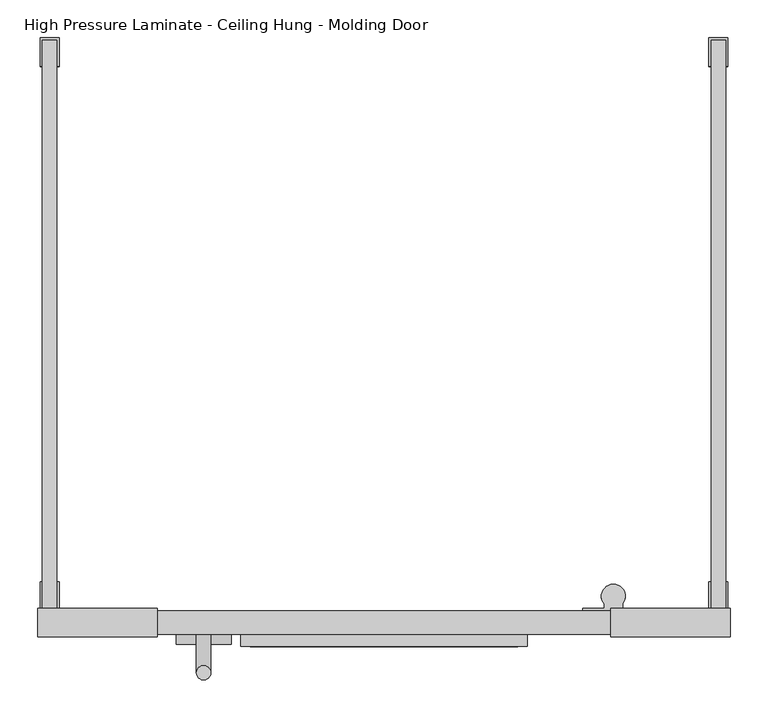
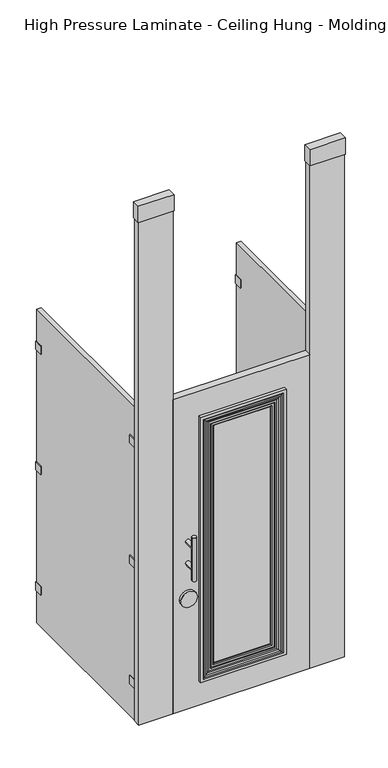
"""IFC4 building model written with IfcOpenShell, lengths in millimetres: proxy geometry, Toilet-Partition_Ironwood-Mfg_High-Pressure-Laminate : High Pressure Laminate - Ceiling Hung - Molding Door."""

from ifc_helpers import new_model, si_unit, point, frame, frame_2d, origin, place, context, project, spatial, polyline, circle_curve, ellipse_curve, trimmed, segment, composite_curve, outline, extrude, source, transform, mapped, element, save
from ifc_brep_helpers import plane_surface, cylinder_surface, revolved_surface, advanced_brep


def high_pressure_laminate_ceiling_hung_molding_door_ac1d6351(model_context):
    return source(origin(), model_context, "Body", "SolidModel", [
        extrude(outline(polyline([(542.925, -796.925), (542.925, -758.825), (701.675, -758.825), (701.675, -796.925), (542.925, -796.925)])), frame((0.0, 0.0, 2667.0), z_axis=(0.0, 0.0, 1.0), x_axis=(1.0, 0.0, 0.0)), (0.0, 0.0, 1.0), 76.1999999),
        extrude(outline(polyline([(0.0, 152.4), (31.75, 152.4), (31.75, 0.0), (0.0, 0.0), (0.0, 152.4)])), frame((546.1, -762.0, 304.8), z_axis=(1.181277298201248e-12, 0.0, 1.0), x_axis=(0.0, -1.0, 0.0)), (0.0, 0.0, 1.0), 2362.2),
        extrude(outline(polyline([(-60.325, -796.925), (-219.075, -796.925), (-219.075, -758.825), (-60.325, -758.825), (-60.325, -796.925)])), frame((0.0, 0.0, 2667.0), z_axis=(0.0, 0.0, 1.0), x_axis=(1.0, 0.0, 0.0)), (0.0, 0.0, 1.0), 76.1999999),
        extrude(outline(polyline([(0.0, -152.4), (0.0, 0.0), (31.75, 0.0), (31.75, -152.4), (0.0, -152.4)])), frame((-63.5, -762.0, 304.8), z_axis=(-1.1812772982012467e-12, 0.0, 1.0), x_axis=(0.0, -1.0, 0.0)), (0.0, 0.0, 1.0), 2362.2),
        extrude(outline(polyline([(546.1, -793.75), (-63.5, -793.75), (-63.5, -762.0), (546.1, -762.0), (546.1, -793.75)])), frame((0.0, 0.0, 304.8), z_axis=(0.0, 0.0, 1.0), x_axis=(1.0, 0.0, 0.0)), (0.0, 0.0, 1.0), 1473.2),
        extrude(outline(composite_curve([segment(trimmed(circle_curve(frame_2d((827.0875, 1.5875)), 36.5125), [point((827.0875, -34.925))], [point((827.0875, 38.1))], False, "CARTESIAN"), True, "CONTINUOUS"), segment(trimmed(circle_curve(frame_2d((827.0875, 1.5875)), 36.5125), [point((827.0875, 38.1))], [point((827.0875, -34.925))], False, "CARTESIAN"), True, "CONTINUOUS")], self_intersect=False)), frame((0.0, -806.45, 0.0), z_axis=(0.0, 1.0, 0.0), x_axis=(0.0, 0.0, 1.0)), (0.0, 0.0, 1.0), 12.7),
        advanced_brep(
        [(-7.9375, -793.75, 1092.2), (11.1125, -793.75, 1092.2), (-7.9375, -793.75, 990.6), (11.1125, -793.75, 990.6), (11.1125, -844.55, 1092.2), (-7.9375, -844.55, 1092.2), (11.1125, -844.55, 990.6), (-7.9375, -844.55, 990.6), (-7.9375, -844.55, 1143.0), (11.1125, -844.55, 1143.0), (-7.9375, -844.55, 939.8), (11.1125, -844.55, 939.8)],
        [
            (0, 1, circle_curve(frame((1.5875, -793.75, 1092.2), z_axis=(0.0, 1.0, 0.0), x_axis=(1.0, 0.0, 0.0)), 9.525)),
            (1, 0, circle_curve(frame((1.5875, -793.75, 1092.2), z_axis=(0.0, 1.0, 0.0), x_axis=(1.0, 0.0, 0.0)), 9.525)),
            (2, 3, circle_curve(frame((1.5875, -793.75, 990.6), z_axis=(0.0, 1.0, 0.0), x_axis=(1.0, 0.0, 0.0)), 9.525)),
            (3, 2, circle_curve(frame((1.5875, -793.75, 990.6), z_axis=(0.0, 1.0, 0.0), x_axis=(1.0, 0.0, 0.0)), 9.525)),
            (1, 4),
            (4, 5, ellipse_curve(frame((1.5875, -844.55, 1092.2), z_axis=(0.0, 0.7071067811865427, 0.7071067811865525), x_axis=(0.0, -0.7071067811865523, 0.7071067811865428)), 13.4703842, 9.525)),
            (5, 0),
            (5, 4, ellipse_curve(frame((1.5875, -844.55, 1092.2), z_axis=(0.0, 0.7071067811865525, -0.7071067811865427), x_axis=(0.0, -0.7071067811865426, -0.7071067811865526)), 13.4703842, 9.525)),
            (3, 6),
            (6, 7, ellipse_curve(frame((1.5875, -844.55, 990.6), z_axis=(0.0, 0.7071067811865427, 0.7071067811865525), x_axis=(0.0, -0.7071067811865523, 0.7071067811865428)), 13.4703842, 9.525)),
            (7, 2),
            (7, 6, ellipse_curve(frame((1.5875, -844.55, 990.6), z_axis=(0.0, 0.7071067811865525, -0.7071067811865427), x_axis=(0.0, -0.7071067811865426, -0.7071067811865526)), 13.4703842, 9.525)),
            (8, 9, circle_curve(frame((1.5875, -844.55, 1143.0), z_axis=(0.0, 0.0, 1.0), x_axis=(1.0, 0.0, 0.0)), 9.525)),
            (9, 8, circle_curve(frame((1.5875, -844.55, 1143.0), z_axis=(0.0, 0.0, 1.0), x_axis=(1.0, 0.0, 0.0)), 9.525)),
            (10, 11, circle_curve(frame((1.5875, -844.55, 939.8), z_axis=(0.0, 0.0, -1.0), x_axis=(1.0, 0.0, 0.0)), 9.525)),
            (11, 10, circle_curve(frame((1.5875, -844.55, 939.8), z_axis=(0.0, 0.0, -1.0), x_axis=(1.0, 0.0, 0.0)), 9.525)),
            (8, 5),
            (5, 7),
            (7, 10),
            (11, 6),
            (6, 4),
            (4, 9),
        ],
        [
            plane_surface(frame((11.1125, -793.75, 1092.2), z_axis=(0.0, 1.0, 0.0), x_axis=(0.0, 0.0, -1.0))),
            cylinder_surface(frame((1.5875, -793.75, 1092.2), z_axis=(0.0, -1.0, 0.0), x_axis=(1.0, 0.0, 0.0)), 9.525),
            cylinder_surface(frame((1.5875, -793.75, 990.6), z_axis=(0.0, -1.0, 0.0), x_axis=(1.0, 0.0, 0.0)), 9.525),
            plane_surface(frame((11.1125, -844.55, 1143.0), z_axis=(0.0, 0.0, 1.0), x_axis=(0.0, 1.0, 0.0))),
            plane_surface(frame((11.1125, -844.55, 939.8), z_axis=(0.0, 0.0, -1.0), x_axis=(0.0, -1.0, 0.0))),
            cylinder_surface(frame((1.5875, -844.55, 939.8), z_axis=(0.0, 0.0, 1.0), x_axis=(1.0, 0.0, 0.0)), 9.525),
        ],
        [
            (0, [[1, 2]]),
            (0, [[3, 4]]),
            (1, [[-2, 5, 6, 7]]),
            (1, [[-1, -7, 8, -5]]),
            (2, [[-4, 9, 10, 11]]),
            (2, [[-3, -11, 12, -9]]),
            (3, [[13, 14]]),
            (4, [[15, 16]]),
            (5, [[-13, 17, 18, 19, -16, 20, 21, 22]]),
            (5, [[-14, -22, -8, -17]]),
            (5, [[-15, -19, -10, -20]]),
            (5, [[-18, -6, -21, -12]]),
        ],
    ),
        advanced_brep(
        [(414.5195881, -795.0073117, 1646.4195881), (415.7768998, -793.75, 1647.6768998), (415.7768998, -793.75, 435.1231002), (414.5195881, -795.0073117, 436.3804119), (382.8493103, -793.6667663, 1614.7493103), (384.1898558, -795.0073117, 1616.0898558), (384.1898558, -795.0073117, 466.7101442), (382.8493103, -793.6667663, 468.0506897), (368.3, -798.7403203, 1600.2), (368.3, -793.6667663, 1600.2), (368.3, -793.6667663, 482.6), (368.3, -798.7403203, 482.6), (371.8761431, -802.1839988, 1603.7761431), (371.8761431, -802.1839988, 479.0238569), (383.7857899, -803.6776278, 1615.6857899), (381.5195942, -802.1839988, 1613.4195942), (381.5195942, -802.1839988, 469.3804058), (383.7857899, -803.6776278, 467.1142101), (399.1420677, -804.5443603, 1631.0420677), (393.8806616, -803.6776278, 1625.7806616), (393.8806616, -803.6776278, 457.0193384), (399.1420677, -804.5443603, 451.7579323), (406.241729, -807.1284257, 1638.141729), (406.241729, -807.1284257, 444.658271), (415.3065117, -806.819399, 1647.2065117), (415.3065117, -806.819399, 435.5934883), (419.1, -809.625, 1651.0), (419.1, -809.625, 431.8), (431.8, -793.75, 1663.7), (431.8, -809.625, 1663.7), (431.8, -809.625, 419.1), (431.8, -793.75, 419.1), (66.8231002, -793.75, 435.1231002), (68.0804119, -795.0073117, 436.3804119), (98.4101442, -795.0073117, 466.7101442), (99.7506897, -793.6667663, 468.0506897), (114.3, -793.6667663, 482.6), (114.3, -798.7403203, 482.6), (110.7238569, -802.1839988, 479.0238569), (101.0804058, -802.1839988, 469.3804058), (98.8142101, -803.6776278, 467.1142101), (88.7193384, -803.6776278, 457.0193384), (83.4579323, -804.5443603, 451.7579323), (76.358271, -807.1284257, 444.658271), (67.2934883, -806.819399, 435.5934883), (63.5, -809.625, 431.8), (50.8, -809.625, 419.1), (50.8, -793.75, 419.1), (66.8231002, -793.75, 1647.6768998), (68.0804119, -795.0073117, 1646.4195881), (98.4101442, -795.0073117, 1616.0898558), (99.7506897, -793.6667663, 1614.7493103), (114.3, -793.6667663, 1600.2), (114.3, -798.7403203, 1600.2), (110.7238569, -802.1839988, 1603.7761431), (101.0804058, -802.1839988, 1613.4195942), (98.8142101, -803.6776278, 1615.6857899), (88.7193384, -803.6776278, 1625.7806616), (83.4579323, -804.5443603, 1631.0420677), (76.358271, -807.1284257, 1638.141729), (67.2934883, -806.819399, 1647.2065117), (63.5, -809.625, 1651.0), (50.8, -809.625, 1663.7), (50.8, -793.75, 1663.7)],
        [
            (0, 1),
            (1, 2),
            (2, 3),
            (3, 0),
            (4, 5),
            (5, 6),
            (6, 7),
            (7, 4),
            (8, 9),
            (9, 10),
            (10, 11),
            (11, 8),
            (12, 8, ellipse_curve(frame((371.8761431, -798.6053079, 1603.7761431), z_axis=(0.7071067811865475, 0.0, -0.7071067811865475), x_axis=(0.7071067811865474, 0.0, 0.7071067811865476)), 5.0610331, 3.5786908)),
            (11, 13, ellipse_curve(frame((371.8761431, -798.6053079, 479.0238569), z_axis=(0.7071067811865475, 0.0, 0.7071067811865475), x_axis=(-0.7071067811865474, 0.0, 0.7071067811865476)), 5.0610331, 3.5786908)),
            (13, 12),
            (14, 15, ellipse_curve(frame((383.7857899, -801.2116303, 1615.6857899), z_axis=(0.7071067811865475, 0.0, -0.7071067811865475), x_axis=(0.7071067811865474, 0.0, 0.7071067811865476)), 3.487447, 2.4659974)),
            (15, 16),
            (16, 17, ellipse_curve(frame((383.7857899, -801.2116303, 467.1142101), z_axis=(0.7071067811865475, 0.0, 0.7071067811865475), x_axis=(-0.7071067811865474, 0.0, 0.7071067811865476)), 3.487447, 2.4659974)),
            (17, 14),
            (18, 19, ellipse_curve(frame((394.2058089, -818.1066197, 1626.1058089), z_axis=(-0.7071067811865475, 0.0, 0.7071067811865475), x_axis=(-0.7071067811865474, 0.0, -0.7071067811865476)), 20.4108564, 14.432655)),
            (19, 20),
            (20, 21, ellipse_curve(frame((394.2058089, -818.1066197, 456.6941911), z_axis=(-0.7071067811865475, 0.0, -0.7071067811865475), x_axis=(0.7071067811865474, 0.0, -0.7071067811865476)), 20.4108564, 14.432655)),
            (21, 18),
            (22, 18),
            (21, 23),
            (23, 22),
            (24, 22, ellipse_curve(frame((410.3907719, -795.729024, 1642.2907719), z_axis=(0.7071067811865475, 0.0, -0.7071067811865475), x_axis=(0.7071067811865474, 0.0, 0.7071067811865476)), 17.1558104, 12.1309899)),
            (23, 25, ellipse_curve(frame((410.3907719, -795.729024, 440.5092281), z_axis=(0.7071067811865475, 0.0, 0.7071067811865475), x_axis=(-0.7071067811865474, 0.0, 0.7071067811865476)), 17.1558104, 12.1309899)),
            (25, 24),
            (26, 24, ellipse_curve(frame((419.1, -805.657588, 1651.0), z_axis=(0.7071067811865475, 0.0, -0.7071067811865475), x_axis=(0.7071067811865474, 0.0, 0.7071067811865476)), 5.6107679, 3.967412)),
            (25, 27, ellipse_curve(frame((419.1, -805.657588, 431.8), z_axis=(0.7071067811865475, 0.0, 0.7071067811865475), x_axis=(-0.7071067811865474, 0.0, 0.7071067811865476)), 5.6107679, 3.967412)),
            (27, 26),
            (28, 29),
            (29, 30),
            (30, 31),
            (31, 28),
            (2, 32),
            (32, 33),
            (33, 3),
            (6, 34),
            (34, 35),
            (35, 7),
            (10, 36),
            (36, 37),
            (37, 11),
            (37, 38, ellipse_curve(frame((110.7238569, -798.6053079, 479.0238569), z_axis=(0.7071067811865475, 0.0, -0.7071067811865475), x_axis=(0.7071067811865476, 0.0, 0.7071067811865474)), 5.0610331, 3.5786908)),
            (38, 13),
            (16, 39),
            (39, 40, ellipse_curve(frame((98.8142101, -801.2116303, 467.1142101), z_axis=(0.7071067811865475, 0.0, -0.7071067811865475), x_axis=(0.7071067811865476, 0.0, 0.7071067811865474)), 3.487447, 2.4659974)),
            (40, 17),
            (20, 41),
            (41, 42, ellipse_curve(frame((88.3941911, -818.1066197, 456.6941911), z_axis=(-0.7071067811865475, 0.0, 0.7071067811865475), x_axis=(-0.7071067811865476, 0.0, -0.7071067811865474)), 20.4108564, 14.432655)),
            (42, 21),
            (42, 43),
            (43, 23),
            (43, 44, ellipse_curve(frame((72.2092281, -795.729024, 440.5092281), z_axis=(0.7071067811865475, 0.0, -0.7071067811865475), x_axis=(0.7071067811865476, 0.0, 0.7071067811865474)), 17.1558104, 12.1309899)),
            (44, 25),
            (44, 45, ellipse_curve(frame((63.5, -805.657588, 431.8), z_axis=(0.7071067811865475, 0.0, -0.7071067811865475), x_axis=(0.7071067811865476, 0.0, 0.7071067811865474)), 5.6107679, 3.967412)),
            (45, 27),
            (30, 46),
            (46, 47),
            (47, 31),
            (32, 48),
            (48, 49),
            (49, 33),
            (34, 50),
            (50, 51),
            (51, 35),
            (36, 52),
            (52, 53),
            (53, 37),
            (53, 54, ellipse_curve(frame((110.7238569, -798.6053079, 1603.7761431), z_axis=(-0.7071067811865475, 0.0, -0.7071067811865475), x_axis=(0.7071067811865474, 0.0, -0.7071067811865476)), 5.0610331, 3.5786908)),
            (54, 38),
            (39, 55),
            (55, 56, ellipse_curve(frame((98.8142101, -801.2116303, 1615.6857899), z_axis=(-0.7071067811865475, 0.0, -0.7071067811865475), x_axis=(0.7071067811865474, 0.0, -0.7071067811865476)), 3.487447, 2.4659974)),
            (56, 40),
            (41, 57),
            (57, 58, ellipse_curve(frame((88.3941911, -818.1066197, 1626.1058089), z_axis=(0.7071067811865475, 0.0, 0.7071067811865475), x_axis=(-0.7071067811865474, 0.0, 0.7071067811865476)), 20.4108564, 14.432655)),
            (58, 42),
            (58, 59),
            (59, 43),
            (59, 60, ellipse_curve(frame((72.2092281, -795.729024, 1642.2907719), z_axis=(-0.7071067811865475, 0.0, -0.7071067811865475), x_axis=(0.7071067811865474, 0.0, -0.7071067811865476)), 17.1558104, 12.1309899)),
            (60, 44),
            (60, 61, ellipse_curve(frame((63.5, -805.657588, 1651.0), z_axis=(-0.7071067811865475, 0.0, -0.7071067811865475), x_axis=(0.7071067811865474, 0.0, -0.7071067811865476)), 5.6107679, 3.967412)),
            (61, 45),
            (46, 62),
            (62, 63),
            (63, 47),
            (63, 28),
            (1, 48),
            (0, 49),
            (5, 50),
            (4, 51),
            (9, 52),
            (8, 53),
            (12, 54),
            (15, 55),
            (14, 56),
            (19, 57),
            (18, 58),
            (22, 59),
            (24, 60),
            (26, 61),
            (29, 62),
        ],
        [
            plane_surface(frame((415.7768998, -793.75, 1647.6768998), z_axis=(-0.7071067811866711, 0.7071067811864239, 0.0), x_axis=(0.0, 0.0, -1.0))),
            plane_surface(frame((384.1898558, -795.0073117, 1616.0898558), z_axis=(0.7071067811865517, 0.7071067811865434, 0.0), x_axis=(0.0, 0.0, -1.0))),
            plane_surface(frame((368.3, -793.6667663, 1600.2), z_axis=(-1.0, 0.0, 0.0), x_axis=(0.0, 0.0, -1.0))),
            cylinder_surface(frame((371.8761431, -798.6053079, 1663.7), z_axis=(0.0, 0.0, 1.0), x_axis=(1.0, 0.0, 0.0)), 3.5786908),
            cylinder_surface(frame((383.7857899, -801.2116303, 1663.7), z_axis=(0.0, 0.0, 1.0), x_axis=(1.0, 0.0, 0.0)), 2.4659974),
            revolved_surface(polyline([(408.63846390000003, -818.1066197, 442.2615361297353), (408.63846390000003, -818.1066197, 1640.5384638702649)]), (394.2058089, -818.1066197, 1663.7), (0.0, 0.0, -1.0)),
            plane_surface(frame((399.1420677, -804.5443603, 1631.0420677), z_axis=(-0.34202014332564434, -0.9396926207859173, 0.0), x_axis=(0.0, 0.0, -1.0))),
            cylinder_surface(frame((410.3907719, -795.729024, 1663.7), z_axis=(0.0, 0.0, 1.0), x_axis=(1.0, 0.0, 0.0)), 12.1309899),
            cylinder_surface(frame((419.1, -805.657588, 1663.7), z_axis=(0.0, 0.0, 1.0), x_axis=(1.0, 0.0, 0.0)), 3.967412),
            plane_surface(frame((431.8, -809.625, 1663.7), z_axis=(1.0, 0.0, 0.0), x_axis=(0.0, 0.0, -1.0))),
            plane_surface(frame((415.7768998, -793.75, 435.1231002), z_axis=(0.0, 0.7071067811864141, 0.7071067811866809), x_axis=(-1.0, 0.0, 0.0))),
            plane_surface(frame((384.1898558, -795.0073117, 466.7101442), z_axis=(0.0, 0.7071067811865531, -0.7071067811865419), x_axis=(-1.0, 0.0, 0.0))),
            plane_surface(frame((368.3, -793.6667663, 482.6), z_axis=(0.0, 0.0, 1.0), x_axis=(-1.0, 0.0, 0.0))),
            cylinder_surface(frame((431.8, -798.6053079, 479.0238569), z_axis=(1.0, 0.0, 0.0), x_axis=(0.0, 0.0, -1.0)), 3.5786908),
            cylinder_surface(frame((431.8, -801.2116303, 467.1142101), z_axis=(1.0, 0.0, 0.0), x_axis=(0.0, 0.0, -1.0)), 2.4659974),
            revolved_surface(polyline([(73.96153612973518, -818.1066197, 442.2615361), (408.63846387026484, -818.1066197, 442.2615361)]), (431.8, -818.1066197, 456.6941911), (-1.0, 0.0, 0.0)),
            plane_surface(frame((399.1420677, -804.5443603, 451.7579323), z_axis=(0.0, -0.9396926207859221, 0.34202014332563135), x_axis=(-1.0, 0.0, 0.0))),
            cylinder_surface(frame((431.8, -795.729024, 440.5092281), z_axis=(1.0, 0.0, 0.0), x_axis=(0.0, 0.0, -1.0)), 12.1309899),
            cylinder_surface(frame((431.8, -805.657588, 431.8), z_axis=(1.0, 0.0, 0.0), x_axis=(0.0, 0.0, -1.0)), 3.967412),
            plane_surface(frame((431.8, -809.625, 419.1), z_axis=(0.0, 0.0, -1.0), x_axis=(-1.0, 0.0, 0.0))),
            plane_surface(frame((66.8231002, -793.75, 435.1231002), z_axis=(0.7071067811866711, 0.7071067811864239, 0.0), x_axis=(0.0, 0.0, 1.0))),
            plane_surface(frame((98.4101442, -795.0073117, 466.7101442), z_axis=(-0.7071067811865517, 0.7071067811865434, 0.0), x_axis=(0.0, 0.0, 1.0))),
            plane_surface(frame((114.3, -793.6667663, 482.6), z_axis=(1.0, 0.0, 0.0), x_axis=(0.0, 0.0, 1.0))),
            cylinder_surface(frame((110.7238569, -798.6053079, 419.1), z_axis=(0.0, 0.0, -1.0), x_axis=(-1.0, 0.0, 0.0)), 3.5786908),
            cylinder_surface(frame((98.8142101, -801.2116303, 419.1), z_axis=(0.0, 0.0, -1.0), x_axis=(-1.0, 0.0, 0.0)), 2.4659974),
            revolved_surface(polyline([(73.9615361, -818.1066197, 1640.5384638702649), (73.9615361, -818.1066197, 442.2615361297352)]), (88.3941911, -818.1066197, 419.1), (0.0, 0.0, 1.0)),
            plane_surface(frame((83.4579323, -804.5443603, 451.7579323), z_axis=(0.34202014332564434, -0.9396926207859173, 0.0), x_axis=(0.0, 0.0, 1.0))),
            cylinder_surface(frame((72.2092281, -795.729024, 419.1), z_axis=(0.0, 0.0, -1.0), x_axis=(-1.0, 0.0, 0.0)), 12.1309899),
            cylinder_surface(frame((63.5, -805.657588, 419.1), z_axis=(0.0, 0.0, -1.0), x_axis=(-1.0, 0.0, 0.0)), 3.967412),
            plane_surface(frame((50.8, -809.625, 419.1), z_axis=(-1.0, 0.0, 0.0), x_axis=(0.0, 0.0, 1.0))),
            plane_surface(frame((50.8, -793.75, 1663.7), z_axis=(0.0, 1.0, 0.0), x_axis=(1.0, 0.0, 0.0))),
            plane_surface(frame((66.8231002, -793.75, 1647.6768998), z_axis=(0.0, 0.7071067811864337, -0.7071067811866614), x_axis=(1.0, 0.0, 0.0))),
            plane_surface(frame((68.0804119, -795.0073117, 1646.4195881), z_axis=(0.0, 1.0, 0.0), x_axis=(1.0, 0.0, 0.0))),
            plane_surface(frame((98.4101442, -795.0073117, 1616.0898558), z_axis=(0.0, 0.7071067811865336, 0.7071067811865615), x_axis=(1.0, 0.0, 0.0))),
            plane_surface(frame((99.7506897, -793.6667663, 1614.7493103), z_axis=(0.0, 1.0, 0.0), x_axis=(1.0, 0.0, 0.0))),
            plane_surface(frame((114.3, -793.6667663, 1600.2), z_axis=(0.0, 0.0, -1.0), x_axis=(1.0, 0.0, 0.0))),
            cylinder_surface(frame((50.8, -798.6053079, 1603.7761431), z_axis=(-1.0, 0.0, 0.0), x_axis=(0.0, 0.0, 1.0)), 3.5786908),
            plane_surface(frame((110.7238569, -802.1839988, 1603.7761431), z_axis=(0.0, -1.0, 0.0), x_axis=(1.0, 0.0, 0.0))),
            cylinder_surface(frame((50.8, -801.2116303, 1615.6857899), z_axis=(-1.0, 0.0, 0.0), x_axis=(0.0, 0.0, 1.0)), 2.4659974),
            plane_surface(frame((98.8142101, -803.6776278, 1615.6857899), z_axis=(0.0, -1.0, 0.0), x_axis=(1.0, 0.0, 0.0))),
            revolved_surface(polyline([(408.63846387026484, -818.1066197, 1640.5384639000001), (73.96153612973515, -818.1066197, 1640.5384639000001)]), (50.8, -818.1066197, 1626.1058089), (1.0, 0.0, 0.0)),
            plane_surface(frame((83.4579323, -804.5443603, 1631.0420677), z_axis=(0.0, -0.9396926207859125, -0.34202014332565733), x_axis=(1.0, 0.0, 0.0))),
            cylinder_surface(frame((50.8, -795.729024, 1642.2907719), z_axis=(-1.0, 0.0, 0.0), x_axis=(0.0, 0.0, 1.0)), 12.1309899),
            cylinder_surface(frame((50.8, -805.657588, 1651.0), z_axis=(-1.0, 0.0, 0.0), x_axis=(0.0, 0.0, 1.0)), 3.967412),
            plane_surface(frame((63.5, -809.625, 1651.0), z_axis=(0.0, -1.0, 0.0), x_axis=(1.0, 0.0, 0.0))),
            plane_surface(frame((50.8, -809.625, 1663.7), z_axis=(0.0, 0.0, 1.0), x_axis=(1.0, 0.0, 0.0))),
        ],
        [
            (0, [[1, 2, 3, 4]]),
            (1, [[5, 6, 7, 8]]),
            (2, [[9, 10, 11, 12]]),
            (3, [[13, -12, 14, 15]]),
            (4, [[16, 17, 18, 19]]),
            (5, [[20, 21, 22, 23]]),
            (6, [[24, -23, 25, 26]]),
            (7, [[27, -26, 28, 29]]),
            (8, [[30, -29, 31, 32]]),
            (9, [[33, 34, 35, 36]]),
            (10, [[-3, 37, 38, 39]]),
            (11, [[-7, 40, 41, 42]]),
            (12, [[-11, 43, 44, 45]]),
            (13, [[-14, -45, 46, 47]]),
            (14, [[-18, 48, 49, 50]]),
            (15, [[-22, 51, 52, 53]]),
            (16, [[-25, -53, 54, 55]]),
            (17, [[-28, -55, 56, 57]]),
            (18, [[-31, -57, 58, 59]]),
            (19, [[-35, 60, 61, 62]]),
            (20, [[-38, 63, 64, 65]]),
            (21, [[-41, 66, 67, 68]]),
            (22, [[-44, 69, 70, 71]]),
            (23, [[-46, -71, 72, 73]]),
            (24, [[-49, 74, 75, 76]]),
            (25, [[-52, 77, 78, 79]]),
            (26, [[-54, -79, 80, 81]]),
            (27, [[-56, -81, 82, 83]]),
            (28, [[-58, -83, 84, 85]]),
            (29, [[-61, 86, 87, 88]]),
            (30, [[-62, -88, 89, -36], [90, -63, -37, -2]]),
            (31, [[-64, -90, -1, 91]]),
            (32, [[-39, -65, -91, -4], [92, -66, -40, -6]]),
            (33, [[-67, -92, -5, 93]]),
            (34, [[-42, -68, -93, -8], [94, -69, -43, -10]]),
            (35, [[-70, -94, -9, 95]]),
            (36, [[-72, -95, -13, 96]]),
            (37, [[97, -74, -48, -17], [-47, -73, -96, -15]]),
            (38, [[-75, -97, -16, 98]]),
            (39, [[99, -77, -51, -21], [-50, -76, -98, -19]]),
            (40, [[-78, -99, -20, 100]]),
            (41, [[-80, -100, -24, 101]]),
            (42, [[-82, -101, -27, 102]]),
            (43, [[-84, -102, -30, 103]]),
            (44, [[104, -86, -60, -34], [-59, -85, -103, -32]]),
            (45, [[-87, -104, -33, -89]]),
        ],
    ),
        extrude(outline(composite_curve([segment(polyline([(581.3737081, -762.0), (505.1737081, -762.0), (505.1737081, -758.825), (533.7487081, -758.825), (533.7487081, -752.9581331)]), True, "CONTINUOUS"), segment(trimmed(circle_curve(frame_2d((546.1, -742.8902139)), 15.9347861), [point((533.7487081, -752.9581331))], [point((558.4512919, -752.9581331))], False, "CARTESIAN"), True, "CONTINUOUS"), segment(polyline([(558.4512919, -752.9581331), (558.4512919, -758.825), (581.3737081, -758.825), (581.3737081, -762.0)]), True, "CONTINUOUS")], self_intersect=False)), frame((0.0, 0.0, 1574.8), z_axis=(0.0, 0.0, 1.0), x_axis=(1.0, 0.0, 0.0)), (0.0, 0.0, 1.0), 63.5),
        extrude(outline(composite_curve([segment(polyline([(581.3737081, -762.0), (505.1737081, -762.0), (505.1737081, -758.825), (533.7487081, -758.825), (533.7487081, -752.9581331)]), True, "CONTINUOUS"), segment(trimmed(circle_curve(frame_2d((546.1, -742.8902139)), 15.9347861), [point((533.7487081, -752.9581331))], [point((558.4512919, -752.9581331))], False, "CARTESIAN"), True, "CONTINUOUS"), segment(polyline([(558.4512919, -752.9581331), (558.4512919, -758.825), (581.3737081, -758.825), (581.3737081, -762.0)]), True, "CONTINUOUS")], self_intersect=False)), frame((0.0, 0.0, 1009.6500001), z_axis=(0.0, 0.0, 1.0), x_axis=(1.0, 0.0, 0.0)), (0.0, 0.0, 1.0), 63.5),
        extrude(outline(composite_curve([segment(polyline([(581.3737081, -762.0), (505.1737081, -762.0), (505.1737081, -758.825), (533.7487081, -758.825), (533.7487081, -752.9581331)]), True, "CONTINUOUS"), segment(trimmed(circle_curve(frame_2d((546.1, -742.8902139)), 15.9347861), [point((533.7487081, -752.9581331))], [point((558.4512919, -752.9581331))], False, "CARTESIAN"), True, "CONTINUOUS"), segment(polyline([(558.4512919, -752.9581331), (558.4512919, -758.825), (581.3737081, -758.825), (581.3737081, -762.0)]), True, "CONTINUOUS")], self_intersect=False)), frame((0.0, 0.0, 444.5), z_axis=(0.0, 0.0, 1.0), x_axis=(1.0, 0.0, 0.0)), (0.0, 0.0, 1.0), 63.5),
        extrude(outline(polyline([(676.148, -723.9), (676.148, -758.825), (695.198, -758.825), (695.198, -723.9), (698.373, -723.9), (698.373, -762.0), (672.973, -762.0), (672.973, -723.9), (676.148, -723.9)])), frame((0.0, 0.0, 1587.8188137), z_axis=(0.0, 0.0, 1.0), x_axis=(1.0, 0.0, 0.0)), (0.0, 0.0, 1.0), 38.1),
        extrude(outline(polyline([(676.148, -38.1), (672.973, -38.1), (672.973, 0.0), (698.373, 0.0), (698.373, -38.1), (695.198, -38.1), (695.198, -3.175), (676.148, -3.175), (676.148, -38.1)])), frame((0.0, 0.0, 1587.8188137), z_axis=(0.0, 0.0, 1.0), x_axis=(1.0, 0.0, 0.0)), (0.0, 0.0, 1.0), 38.1),
        extrude(outline(polyline([(676.148, -723.9), (676.148, -758.825), (695.198, -758.825), (695.198, -723.9), (698.373, -723.9), (698.373, -762.0), (672.973, -762.0), (672.973, -723.9), (676.148, -723.9)])), frame((0.0, 0.0, 1022.35), z_axis=(0.0, 0.0, 1.0), x_axis=(1.0, 0.0, 0.0)), (0.0, 0.0, 1.0), 38.1),
        extrude(outline(polyline([(676.148, -38.1), (672.973, -38.1), (672.973, 0.0), (698.373, 0.0), (698.373, -38.1), (695.198, -38.1), (695.198, -3.175), (676.148, -3.175), (676.148, -38.1)])), frame((0.0, 0.0, 1022.35), z_axis=(0.0, 0.0, 1.0), x_axis=(1.0, 0.0, 0.0)), (0.0, 0.0, 1.0), 38.1),
        extrude(outline(polyline([(676.148, -723.9), (676.148, -758.825), (695.198, -758.825), (695.198, -723.9), (698.373, -723.9), (698.373, -762.0), (672.973, -762.0), (672.973, -723.9), (676.148, -723.9)])), frame((0.0, 0.0, 457.2), z_axis=(0.0, 0.0, 1.0), x_axis=(1.0, 0.0, 0.0)), (0.0, 0.0, 1.0), 38.1),
        extrude(outline(polyline([(676.148, -38.1), (672.973, -38.1), (672.973, 0.0), (698.373, 0.0), (698.373, -38.1), (695.198, -38.1), (695.198, -3.175), (676.148, -3.175), (676.148, -38.1)])), frame((0.0, 0.0, 457.2), z_axis=(0.0, 0.0, 1.0), x_axis=(1.0, 0.0, 0.0)), (0.0, 0.0, 1.0), 38.1),
        extrude(outline(polyline([(-212.598, -723.9), (-212.598, -758.825), (-193.548, -758.825), (-193.548, -723.9), (-190.373, -723.9), (-190.373, -762.0), (-215.773, -762.0), (-215.773, -723.9), (-212.598, -723.9)])), frame((0.0, 0.0, 1587.8188137), z_axis=(0.0, 0.0, 1.0), x_axis=(1.0, 0.0, 0.0)), (0.0, 0.0, 1.0), 38.1),
        extrude(outline(polyline([(-212.598, -38.1), (-215.773, -38.1), (-215.773, 0.0), (-190.373, 0.0), (-190.373, -38.1), (-193.548, -38.1), (-193.548, -3.175), (-212.598, -3.175), (-212.598, -38.1)])), frame((0.0, 0.0, 1587.8188137), z_axis=(0.0, 0.0, 1.0), x_axis=(1.0, 0.0, 0.0)), (0.0, 0.0, 1.0), 38.1),
        extrude(outline(polyline([(-212.598, -723.9), (-212.598, -758.825), (-193.548, -758.825), (-193.548, -723.9), (-190.373, -723.9), (-190.373, -762.0), (-215.773, -762.0), (-215.773, -723.9), (-212.598, -723.9)])), frame((0.0, 0.0, 1022.35), z_axis=(0.0, 0.0, 1.0), x_axis=(1.0, 0.0, 0.0)), (0.0, 0.0, 1.0), 38.1),
        extrude(outline(polyline([(-212.598, -38.1), (-215.773, -38.1), (-215.773, 0.0), (-190.373, 0.0), (-190.373, -38.1), (-193.548, -38.1), (-193.548, -3.175), (-212.598, -3.175), (-212.598, -38.1)])), frame((0.0, 0.0, 1022.35), z_axis=(0.0, 0.0, 1.0), x_axis=(1.0, 0.0, 0.0)), (0.0, 0.0, 1.0), 38.1),
        extrude(outline(polyline([(-212.598, -723.9), (-212.598, -758.825), (-193.548, -758.825), (-193.548, -723.9), (-190.373, -723.9), (-190.373, -762.0), (-215.773, -762.0), (-215.773, -723.9), (-212.598, -723.9)])), frame((0.0, 0.0, 457.2), z_axis=(0.0, 0.0, 1.0), x_axis=(1.0, 0.0, 0.0)), (0.0, 0.0, 1.0), 38.1),
        extrude(outline(polyline([(-212.598, -38.1), (-215.773, -38.1), (-215.773, 0.0), (-190.373, 0.0), (-190.373, -38.1), (-193.548, -38.1), (-193.548, -3.175), (-212.598, -3.175), (-212.598, -38.1)])), frame((0.0, 0.0, 457.2), z_axis=(0.0, 0.0, 1.0), x_axis=(1.0, 0.0, 0.0)), (0.0, 0.0, 1.0), 38.1),
        extrude(outline(polyline([(-193.548, -3.175), (-193.548, -758.825), (-212.598, -758.825), (-212.598, -3.175), (-193.548, -3.175)])), frame((0.0, 0.0, 304.8), z_axis=(0.0, 0.0, 1.0), x_axis=(1.0, 0.0, 0.0)), (0.0, 0.0, 1.0), 1473.2),
        extrude(outline(polyline([(695.198, -3.175), (695.198, -758.825), (676.148, -758.825), (676.148, -3.175), (695.198, -3.175)])), frame((0.0, 0.0, 304.8), z_axis=(0.0, 0.0, 1.0), x_axis=(1.0, 0.0, 0.0)), (0.0, 0.0, 1.0), 1473.2),
    ])


if __name__ == "__main__":
    model = new_model("IFC4")
    model_context = context("Model", 3, world=origin())
    ifc_project = project(units=[si_unit("LENGTHUNIT", "METRE", prefix="MILLI")], contexts=[model_context])
    site = spatial("IfcSite", under=ifc_project)
    building = spatial("IfcBuilding", under=site)
    placement = place(None, origin())
    high_pressure_laminate_ceiling_hung_molding_door_shape = high_pressure_laminate_ceiling_hung_molding_door_ac1d6351(model_context)
    element("IfcBuildingElementProxy", 1, Name="Toilet-Partition_Ironwood-Mfg_High-Pressure-Laminate : High Pressure Laminate - Ceiling Hung - Molding Door", ObjectType="Toilet-Partition_Ironwood-Mfg_High-Pressure-Laminate : High Pressure Laminate - Ceiling Hung - Molding Door", at=placement, inside=building, context=model_context, shape_type="MappedRepresentation", body=[
        mapped(high_pressure_laminate_ceiling_hung_molding_door_shape, transform((0.0, 0.0, 0.0), x_axis=(1.0, 0.0, 0.0), y_axis=(0.0, 1.0, 0.0), z_axis=(0.0, 0.0, 1.0))),
    ])
    save(model, "model.ifc")
